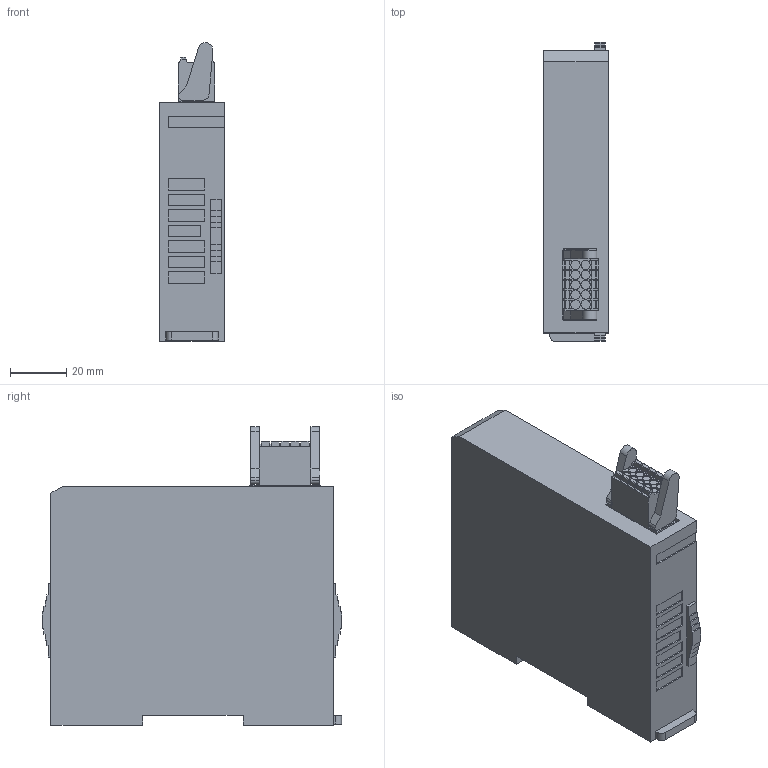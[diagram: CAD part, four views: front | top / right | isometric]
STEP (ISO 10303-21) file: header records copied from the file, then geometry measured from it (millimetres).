
FILE_DESCRIPTION (( 'STEP AP214' ), '1' );
FILE_NAME ('A8HPU-16-0P.STEP', '2025-09-03T05:40:05', ( '' ), ( '' ), 'SwSTEP 2.0', 'SolidWorks 2023', '' );
FILE_SCHEMA (( 'AUTOMOTIVE_DESIGN' ));
Length unit declared in the file: millimetre
Products named in the file (1): A8HPU-16-0P
Bounding box: 23 x 106 x 105.82 mm (x, y, z)
Volume: 195097.8 mm3; surface area: 28709 mm2
Topology: 2 solids, 13 shells, 514 faces, 1306 edges, 856 vertices
Faces by surface type: plane 434, cylinder 76, cone 4
Entity records: 20924 total; most frequent: CARTESIAN_POINT 2677, ORIENTED_EDGE 2612, DIRECTION 2498, EDGE_CURVE 1306, LINE 1144, VECTOR 1144, VERTEX_POINT 856, AXIS2_PLACEMENT_3D 677
